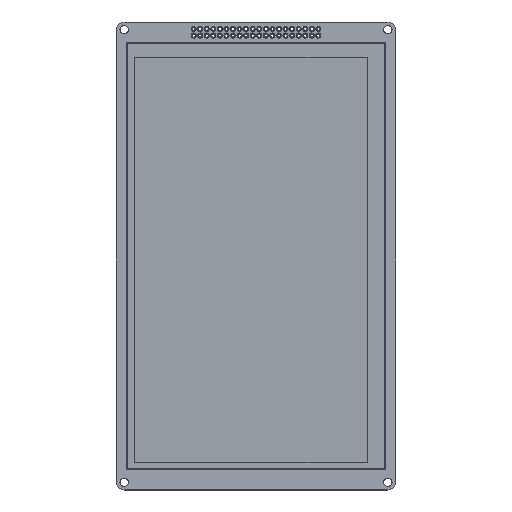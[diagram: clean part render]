
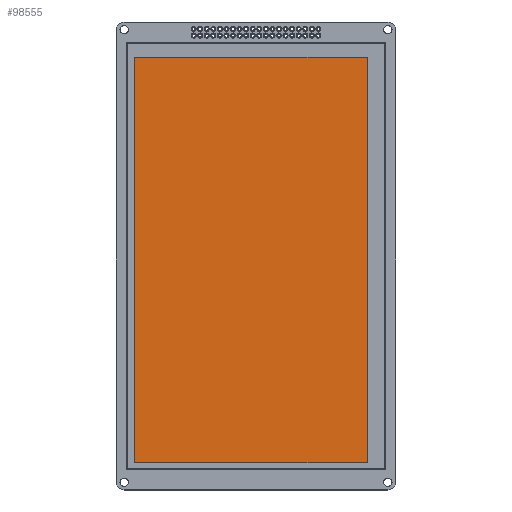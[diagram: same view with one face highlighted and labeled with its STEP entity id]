
A CAD part, top view. The second image highlights one B-rep face of the part: STEP entity #98555.
In plain terms, the highlighted planar face has unit normal (0, 0, 1).
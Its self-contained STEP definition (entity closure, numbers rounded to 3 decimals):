
#2120 = EDGE_CURVE ( 'NONE', #66084, #90174, #103822, .T. ) ;
#6951 = ORIENTED_EDGE ( 'NONE', *, *, #98779, .T. ) ;
#8121 = DIRECTION ( 'NONE',  ( 1., 0., 0. ) ) ;
#8589 = ORIENTED_EDGE ( 'NONE', *, *, #89028, .T. ) ;
#8796 = LINE ( 'NONE', #67460, #69516 ) ;
#13834 = CARTESIAN_POINT ( 'NONE',  ( -22.87, -10.85, 8.3 ) ) ;
#16605 = ORIENTED_EDGE ( 'NONE', *, *, #2120, .T. ) ;
#16903 = LINE ( 'NONE', #65026, #81126 ) ;
#17424 = DIRECTION ( 'NONE',  ( 0., 0., 1. ) ) ;
#18628 = CARTESIAN_POINT ( 'NONE',  ( -22.87, -10.85, 8.3 ) ) ;
#21664 = CARTESIAN_POINT ( 'NONE',  ( 67.13, -10.85, 8.3 ) ) ;
#22886 = LINE ( 'NONE', #21664, #94075 ) ;
#23126 = AXIS2_PLACEMENT_3D ( 'NONE', #92773, #17424, #8121 ) ;
#24368 = VERTEX_POINT ( 'NONE', #111850 ) ;
#26717 = DIRECTION ( 'NONE',  ( -1., 0., 0. ) ) ;
#34116 = FACE_OUTER_BOUND ( 'NONE', #107628, .T. ) ;
#45940 = CARTESIAN_POINT ( 'NONE',  ( -22.87, -167.75, 8.3 ) ) ;
#50070 = DIRECTION ( 'NONE',  ( 0., 1., 0. ) ) ;
#55190 = DIRECTION ( 'NONE',  ( 1., 0., 0. ) ) ;
#63831 = ORIENTED_EDGE ( 'NONE', *, *, #77012, .T. ) ;
#64941 = PLANE ( 'NONE',  #23126 ) ;
#65026 = CARTESIAN_POINT ( 'NONE',  ( -22.87, -10.85, 8.3 ) ) ;
#66084 = VERTEX_POINT ( 'NONE', #101609 ) ;
#67460 = CARTESIAN_POINT ( 'NONE',  ( -22.87, -167.75, 8.3 ) ) ;
#69516 = VECTOR ( 'NONE', #55190, 1000. ) ;
#77012 = EDGE_CURVE ( 'NONE', #79357, #24368, #8796, .T. ) ;
#79357 = VERTEX_POINT ( 'NONE', #45940 ) ;
#81126 = VECTOR ( 'NONE', #102097, 1000. ) ;
#89028 = EDGE_CURVE ( 'NONE', #90174, #79357, #16903, .T. ) ;
#90174 = VERTEX_POINT ( 'NONE', #13834 ) ;
#92773 = CARTESIAN_POINT ( 'NONE',  ( 0., 0., 8.3 ) ) ;
#94075 = VECTOR ( 'NONE', #50070, 1000. ) ;
#98555 = ADVANCED_FACE ( 'NONE', ( #34116 ), #64941, .T. ) ;
#98779 = EDGE_CURVE ( 'NONE', #24368, #66084, #22886, .T. ) ;
#101609 = CARTESIAN_POINT ( 'NONE',  ( 67.13, -10.85, 8.3 ) ) ;
#102097 = DIRECTION ( 'NONE',  ( 0., -1., 0. ) ) ;
#103822 = LINE ( 'NONE', #18628, #108531 ) ;
#107628 = EDGE_LOOP ( 'NONE', ( #8589, #63831, #6951, #16605 ) ) ;
#108531 = VECTOR ( 'NONE', #26717, 1000. ) ;
#111850 = CARTESIAN_POINT ( 'NONE',  ( 67.13, -167.75, 8.3 ) ) ;
